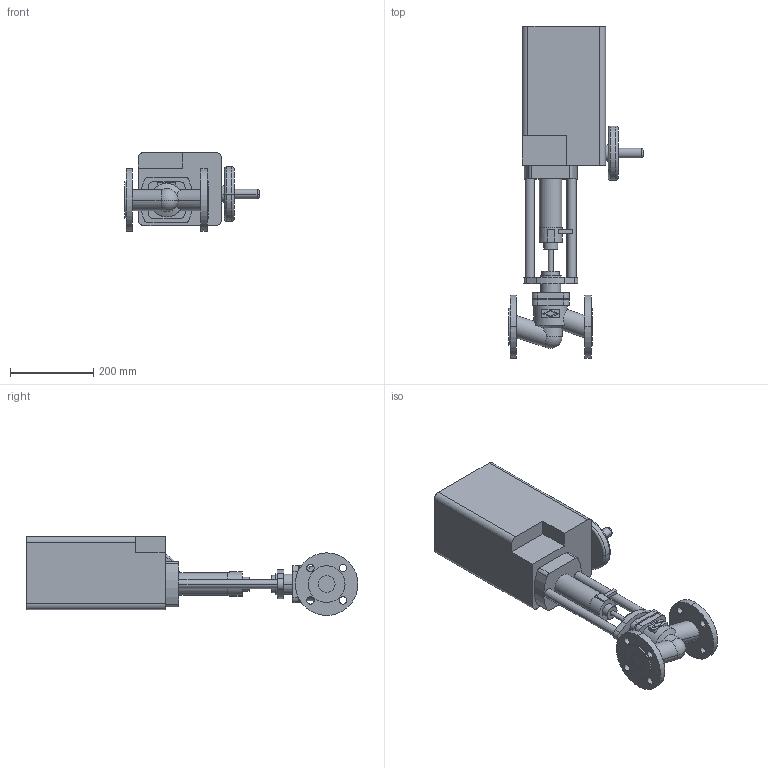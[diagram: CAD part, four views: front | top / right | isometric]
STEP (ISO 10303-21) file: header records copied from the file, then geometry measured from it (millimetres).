
FILE_DESCRIPTION(('OneSpaceDesigner STEP Export'),'2;1');
FILE_NAME('c000001193.stp','2005-01-05T12:52:23',(''),(''),'OneSpace Designer STEP processor (Jan. 2003) for AP203(Solid Model)','OneSpace Designer 12.01D 09-Jul-2004 (C) CoCreate Software GmbH','');
FILE_SCHEMA(('CONFIG_CONTROL_DESIGN'));
Length unit declared in the file: millimetre
Products named in the file (1): 1
Bounding box: 321.6 x 795.5 x 189 mm (x, y, z)
Volume: 14136815.5 mm3; surface area: 596029 mm2
Topology: 1 solids, 1 shells, 173 faces, 430 edges, 284 vertices
Faces by surface type: cylinder 84, plane 79, torus 6, cone 2, sphere 2
Entity records: 5060 total; most frequent: CARTESIAN_POINT 1058, ORIENTED_EDGE 856, DIRECTION 750, EDGE_CURVE 428, VERTEX_POINT 284, AXIS2_PLACEMENT_3D 265, VECTOR 220, LINE 220
